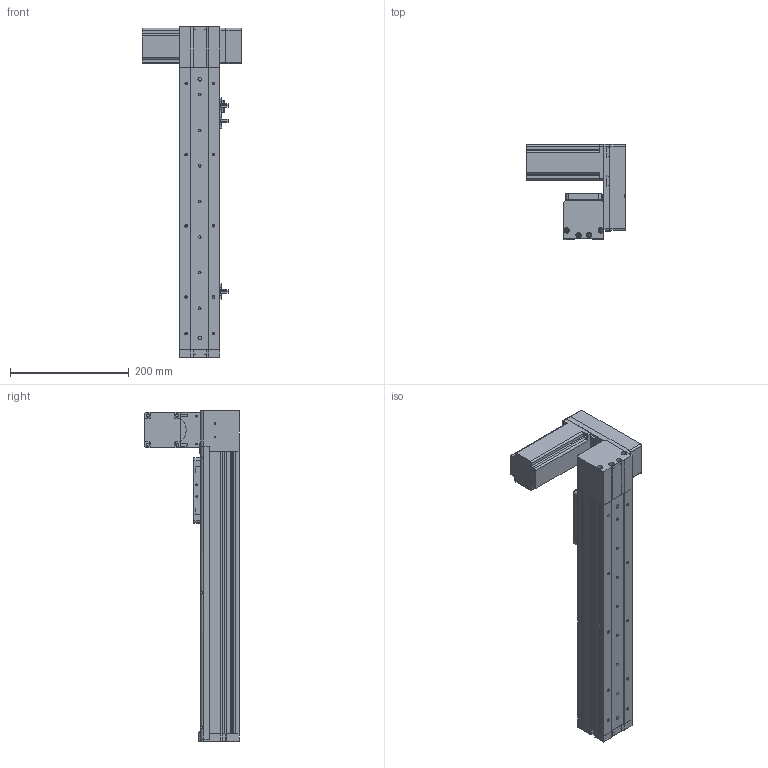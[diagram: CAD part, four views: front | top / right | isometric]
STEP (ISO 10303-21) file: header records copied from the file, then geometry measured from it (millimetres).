
FILE_DESCRIPTION (( 'STEP AP214' ), '1' );
FILE_NAME ('KSD68BS-S300-MLU-CR.STEP', '2019-08-27T07:59:36', ( '微软用户' ), ( '微软中国' ), 'SwSTEP 2.0', 'SolidWorks 2014', '' );
FILE_SCHEMA (( 'AUTOMOTIVE_DESIGN' ));
Length unit declared in the file: millimetre
Products named in the file (14): 悵誘欶奻狟殏; 68宽马达安装板连板上折同步带; 感应片68宽全封闭; 68遵裔啣揤啣1; U倰嫖萇EEㄜSX672; 台达ECMA－C20604AS伺服电机（400W); KSD68BS 300行程底板全封闭; KSD68BS-S300-MLU-CR; KSD68BS 300行程盖板全封闭; 68宽单导轨全封闭丝杆传动安装板1防护罩; KSD68BS 300行程侧板全封闭; 68宽单导轨全封闭同步带端板; 68单导轨全封闭同步带电机座左; 68单导轨全封闭同步带安装板
Assembly tree (17 placements, depth 2):
  KSD68BS-S300-MLU-CR
    KSD68BS 300行程底板全封闭
    台达ECMA－C20604AS伺服电机（400W)
    U倰嫖萇EEㄜSX672  x3
    感应片68宽全封闭
    68宽马达安装板连板上折同步带
    悵誘欶奻狟殏
    68单导轨全封闭同步带安装板
    68单导轨全封闭同步带电机座左
    68宽单导轨全封闭同步带端板
    KSD68BS 300行程侧板全封闭  x2
    68宽单导轨全封闭丝杆传动安装板1防护罩
    68遵裔啣揤啣1  x2
    KSD68BS 300行程盖板全封闭
Bounding box: 167.2 x 159.5 x 558.1 mm (x, y, z)
Volume: 1593710.2 mm3; surface area: 526724.4 mm2
Topology: 18 solids, 18 shells, 1369 faces, 3847 edges, 2476 vertices
Faces by surface type: plane 621, cylinder 616, cone 132
Entity records: 42303 total; most frequent: CARTESIAN_POINT 7127, DIRECTION 6402, ORIENTED_EDGE 6138, EDGE_CURVE 3069, AXIS2_PLACEMENT_3D 2275, VERTEX_POINT 2014, LINE 1852, VECTOR 1852
